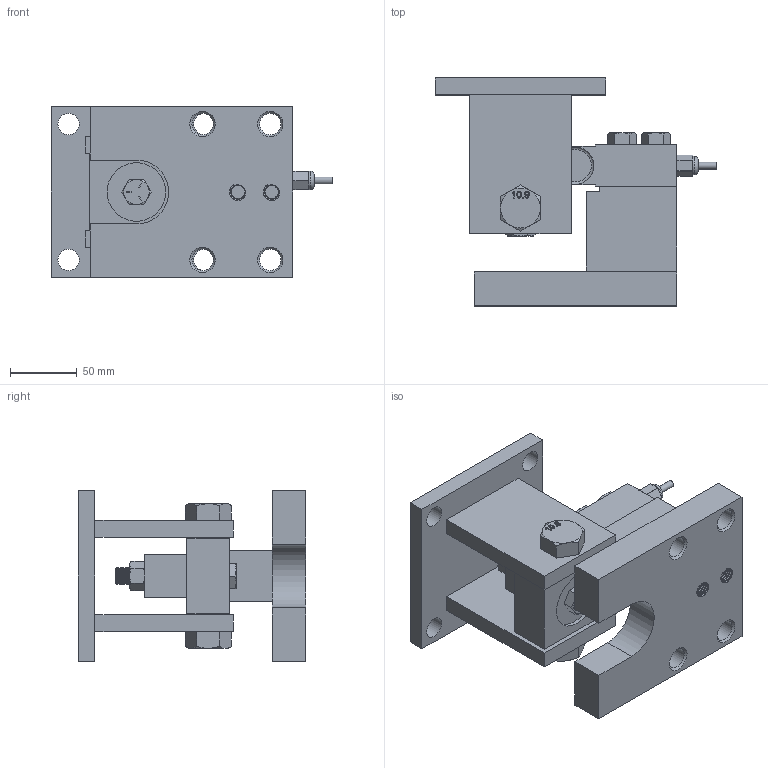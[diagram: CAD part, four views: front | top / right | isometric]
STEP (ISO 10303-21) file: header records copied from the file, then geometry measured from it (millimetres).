
FILE_DESCRIPTION(/* description */ (''),/* implementation_level */ '2;1');
FILE_NAME(/* name */ 'C:/Users/fardi/Dropbox/Work/Anyload/Load Cell Models/Product Catalog 3D/Weight Modules/563/563YHM2/563YHM2-(0.1-SE5)klb v17.step',/* time_stamp */ '2020-05-11T11:23:25-07:00',/* author */ (''),/* organization */ (''),/* preprocessor_version */ 'ST-DEVELOPER v18.1',/* originating_system */ 'Autodesk Translation Framework v9.2.0.1227',/* authorisation */ '');
FILE_SCHEMA (('AUTOMOTIVE_DESIGN { 1 0 10303 214 3 1 1 }'));
Products named in the file (8): 563YHM2-(0.1-SE5)klb; Base; 563YH-(0.1-SE5)Klb; Top; 91257A730; 91310A155; 91247A361; 95462A525
Assembly tree (9 placements, depth 2):
  563YHM2-(0.1-SE5)klb
    Base
    563YH-(0.1-SE5)Klb
    Top
    91257A730  x2
    91310A155  x2
    91247A361
    95462A525
Bounding box: 211.4 x 171.1 x 128 mm (x, y, z)
Volume: 1244011.9 mm3; surface area: 228706 mm2
Topology: 10 solids, 10 shells, 758 faces, 2031 edges, 1331 vertices
Faces by surface type: cylinder 396, plane 201, bspline 91, cone 67, torus 3
Full cylindrical faces by diameter (mm): 5.1 x1, 10.162 x30, 10.808 x24, 11.05 x31, 11.427 x13, 12.7 x107, 13.5 x2, 14 x3, 16 x8, 16.752 x24, 17.519 x17, 20 x24, 20.293 x17, 20.6 x1, 44 x1
Entity records: 45597 total; most frequent: CARTESIAN_POINT 32240, ORIENTED_EDGE 3172, DIRECTION 2094, EDGE_CURVE 1586, VERTEX_POINT 1038, AXIS2_PLACEMENT_3D 745, EDGE_LOOP 650, LINE 604
